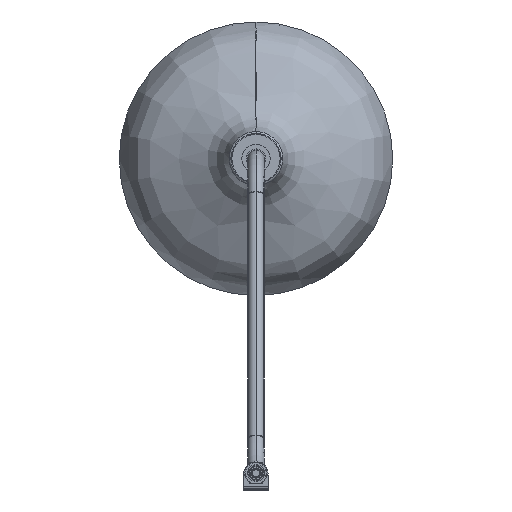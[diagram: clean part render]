
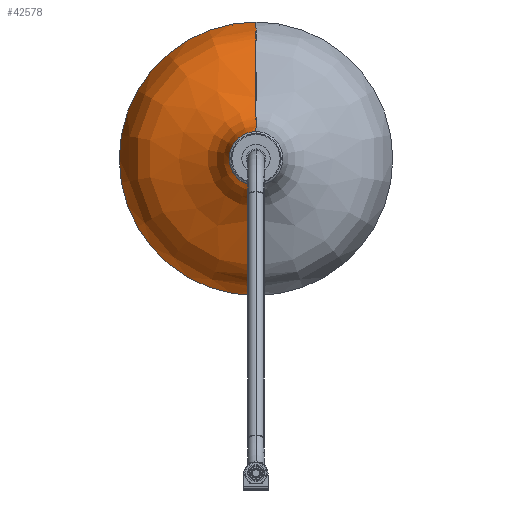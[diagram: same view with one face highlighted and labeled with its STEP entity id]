
A CAD part, top view. The second image highlights one B-rep face of the part: STEP entity #42578.
In plain terms, the highlighted face is a revolution surface.
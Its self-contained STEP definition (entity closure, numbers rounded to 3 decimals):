
#42346=CARTESIAN_POINT('',(0.,0.,0.));
#42347=DIRECTION('',(0.,1.,0.));
#42348=DIRECTION('',(-1.,0.,0.));
#42349=AXIS2_PLACEMENT_3D('',#42346,#42347,#42348);
#42351=CARTESIAN_POINT('',(0.,252.608,0.));
#42352=DIRECTION('',(0.,1.,0.));
#42353=DIRECTION('',(-1.,0.,0.));
#42354=AXIS2_PLACEMENT_3D('',#42351,#42352,#42353);
#42361=CARTESIAN_POINT('',(290.,0.,
0.));
#42362=CARTESIAN_POINT('',(286.445,14.286,
0.));
#42363=CARTESIAN_POINT('',(278.715,48.105,
0.));
#42364=CARTESIAN_POINT('',(257.194,91.816,
0.));
#42365=CARTESIAN_POINT('',(211.317,118.572,
0.));
#42366=CARTESIAN_POINT('',(164.12,135.815,
0.));
#42367=CARTESIAN_POINT('',(119.515,156.474,
0.));
#42368=CARTESIAN_POINT('',(81.163,183.774,
0.));
#42369=CARTESIAN_POINT('',(65.133,219.203,
0.));
#42370=CARTESIAN_POINT('',(58.145,243.888,
0.));
#42371=CARTESIAN_POINT('',(57.264,252.132,
0.));
#42372=CARTESIAN_POINT('',(57.218,252.608,
0.));
#42379=CARTESIAN_POINT('',(-290.,0.,0.));
#42380=CARTESIAN_POINT('',(-286.445,14.286,
0.));
#42381=CARTESIAN_POINT('',(-278.715,48.105,
0.));
#42382=CARTESIAN_POINT('',(-257.194,91.816,
0.));
#42383=CARTESIAN_POINT('',(-211.317,118.572,
0.));
#42384=CARTESIAN_POINT('',(-164.12,135.815,
0.));
#42385=CARTESIAN_POINT('',(-119.515,156.474,
0.));
#42386=CARTESIAN_POINT('',(-81.163,183.774,
0.));
#42387=CARTESIAN_POINT('',(-65.133,219.203,
0.));
#42388=CARTESIAN_POINT('',(-58.145,243.888,
0.));
#42389=CARTESIAN_POINT('',(-57.264,252.132,
0.));
#42390=CARTESIAN_POINT('',(-57.218,252.608,
0.));
#42530=CARTESIAN_POINT('',(57.218,252.608,
0.));
#42531=CARTESIAN_POINT('',(-57.218,252.608,
0.));
#42532=VERTEX_POINT('',#42530);
#42533=VERTEX_POINT('',#42531);
#42534=CARTESIAN_POINT('',(-290.,0.,
0.));
#42535=CARTESIAN_POINT('',(290.,0.,0.));
#42536=VERTEX_POINT('',#42534);
#42537=VERTEX_POINT('',#42535);
#42550=CARTESIAN_POINT('',(290.893,-3.555,0.));
#42551=CARTESIAN_POINT('',(290.595,-2.383,0.));
#42552=CARTESIAN_POINT('',(286.752,12.944,0.));
#42553=CARTESIAN_POINT('',(278.715,48.105,0.));
#42554=CARTESIAN_POINT('',(257.194,91.816,0.));
#42555=CARTESIAN_POINT('',(211.317,118.572,0.));
#42556=CARTESIAN_POINT('',(164.12,135.815,0.));
#42557=CARTESIAN_POINT('',(119.515,156.474,0.));
#42558=CARTESIAN_POINT('',(81.163,183.774,0.));
#42559=CARTESIAN_POINT('',(65.133,219.203,0.));
#42560=CARTESIAN_POINT('',(57.812,245.065,0.));
#42561=CARTESIAN_POINT('',(57.035,254.555,0.));
#42562=CARTESIAN_POINT('',(56.963,256.258,0.));
#42564=CARTESIAN_POINT('',(0.,270.933,0.));
#42565=DIRECTION('',(0.,-1.,0.));
#42566=AXIS1_PLACEMENT('',#42564,#42565);
#42567=SURFACE_OF_REVOLUTION('',#42563,#42566);
#42569=ORIENTED_EDGE('',*,*,#42568,.F.);
#42571=ORIENTED_EDGE('',*,*,#42570,.T.);
#42573=ORIENTED_EDGE('',*,*,#42572,.T.);
#42575=ORIENTED_EDGE('',*,*,#42574,.F.);
#42576=EDGE_LOOP('',(#42569,#42571,#42573,#42575));
#42577=FACE_OUTER_BOUND('',#42576,.F.);
#42578=ADVANCED_FACE('',(#42577),#42567,.F.);
#42350=CIRCLE('',#42349,290.);
#42355=CIRCLE('',#42354,57.218);
#42373=B_SPLINE_CURVE_WITH_KNOTS('',3,(#42361,#42362,#42363,#42364,#42365,
#42366,#42367,#42368,#42369,#42370,#42371,#42372),.UNSPECIFIED.,.F.,.F.,(4,1,1,
1,1,1,1,1,1,4),(0.,0.13,0.274,0.387,
0.553,0.689,0.79,0.932,
0.996,1.),.UNSPECIFIED.);
#42391=B_SPLINE_CURVE_WITH_KNOTS('',3,(#42379,#42380,#42381,#42382,#42383,
#42384,#42385,#42386,#42387,#42388,#42389,#42390),.UNSPECIFIED.,.F.,.F.,(4,1,1,
1,1,1,1,1,1,4),(0.,0.13,0.274,0.387,
0.553,0.689,0.79,0.932,
0.996,1.),.UNSPECIFIED.);
#42563=B_SPLINE_CURVE_WITH_KNOTS('',3,(#42550,#42551,#42552,#42553,#42554,
#42555,#42556,#42557,#42558,#42559,#42560,#42561,#42562),.UNSPECIFIED.,.F.,.F.,(
4,1,1,1,1,1,1,1,1,1,4),(0.,0.011,0.138,
0.279,0.389,0.553,0.685,
0.784,0.923,0.986,1.),.UNSPECIFIED.);
#42568=EDGE_CURVE('',#42536,#42537,#42350,.T.);
#42570=EDGE_CURVE('',#42536,#42533,#42391,.T.);
#42572=EDGE_CURVE('',#42533,#42532,#42355,.T.);
#42574=EDGE_CURVE('',#42537,#42532,#42373,.T.);
